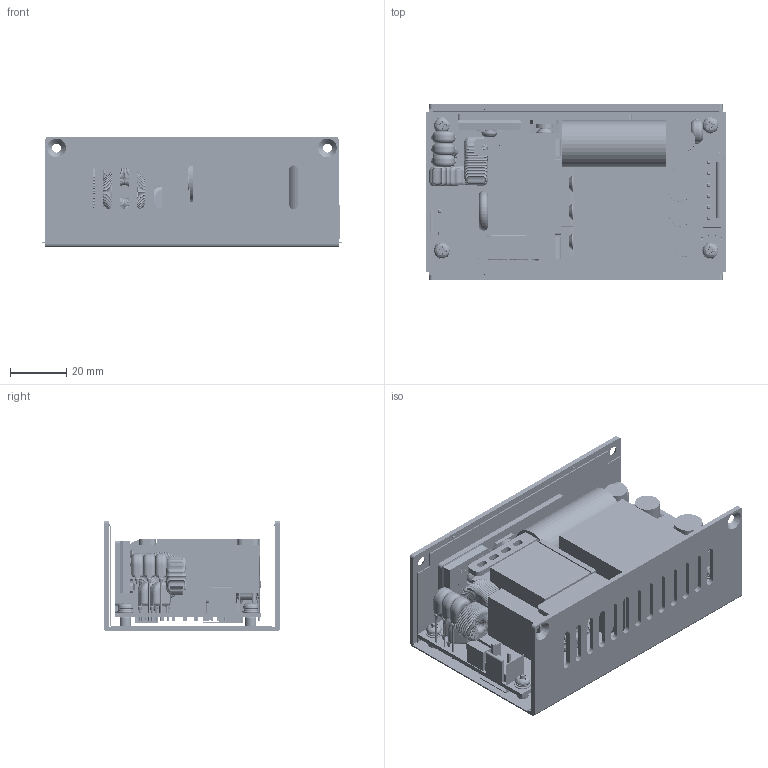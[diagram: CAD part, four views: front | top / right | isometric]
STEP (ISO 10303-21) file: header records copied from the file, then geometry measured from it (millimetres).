
FILE_DESCRIPTION(/* description */ (''),/* implementation_level */ '2;1');
FILE_NAME(/* name */ 'D:\Inventor\MQC150_MQF240\MQF240U A-TYPE.stp',/* time_stamp */ '2020-06-02T17:48:55+08:00',/* author */ ('peter'),/* organization */ (''),/* preprocessor_version */ 'ST-DEVELOPER v15.2',/* originating_system */ 'Autodesk Inventor 2014',/* authorisation */ '');
FILE_SCHEMA (('AUTOMOTIVE_DESIGN { 1 0 10303 214 3 1 1 }'));
Products named in the file (32): MQF240; 8-22; M3-1; R378MQF24003-1; MYLAR _ R380MMQF24002; U - CASE for 240U; PCB _ MQF240; R378MQF24001; BD1; TO-220; SCREW PH M3_5mm; SCREW PH M3_6mm; TW-1; X1; R378MQF24002; TO-220FP; X2; L1; NTC1; NTC1 _ 10mm; Y - C; Y - C 1; VR; 2r5 mm - 2P; L2; 2S+1 PIN; MYLAR _ R380MMQC15001; MYLAR _ 12.5x12.5x9 mm L TYPE; 6 PIN; MQF240O A-TYPE; SCREW CH_W  M3_6mm; MQF240U A-TYPE
Bounding box: 106.6 x 62.5 x 39.2 mm (x, y, z)
Volume: 119985.2 mm3; surface area: 101755.7 mm2
Topology: 61 solids, 327 shells, 10513 faces, 20115 edges, 9829 vertices
Faces by surface type: torus 4252, cylinder 4024, plane 1791, bspline 349, cone 97
Full cylindrical faces by diameter (mm): 0.45 x3, 0.5 x1, 0.6 x18, 0.8 x4, 1 x4, 1.553 x2, 1.6 x1, 1.85 x2, 2.459 x13, 2.5 x5, 3 x26, 3.1 x4, 3.2 x7, 3.6 x1, 3.7 x2, 3.85 x1, 4 x4, 4.1 x9, 4.3 x4, 5.8 x8, 6 x1, 6.441 x1, 7.488 x1, 7.847 x1, 7.879 x1, 8.756 x1, 10.169 x1, 16.5 x1
Entity records: 197796 total; most frequent: CARTESIAN_POINT 48933, DIRECTION 32656, ORIENTED_EDGE 29678, AXIS2_PLACEMENT_3D 14408, EDGE_CURVE 13451, EDGE_LOOP 7389, ADVANCED_FACE 7054, FACE_OUTER_BOUND 7017
